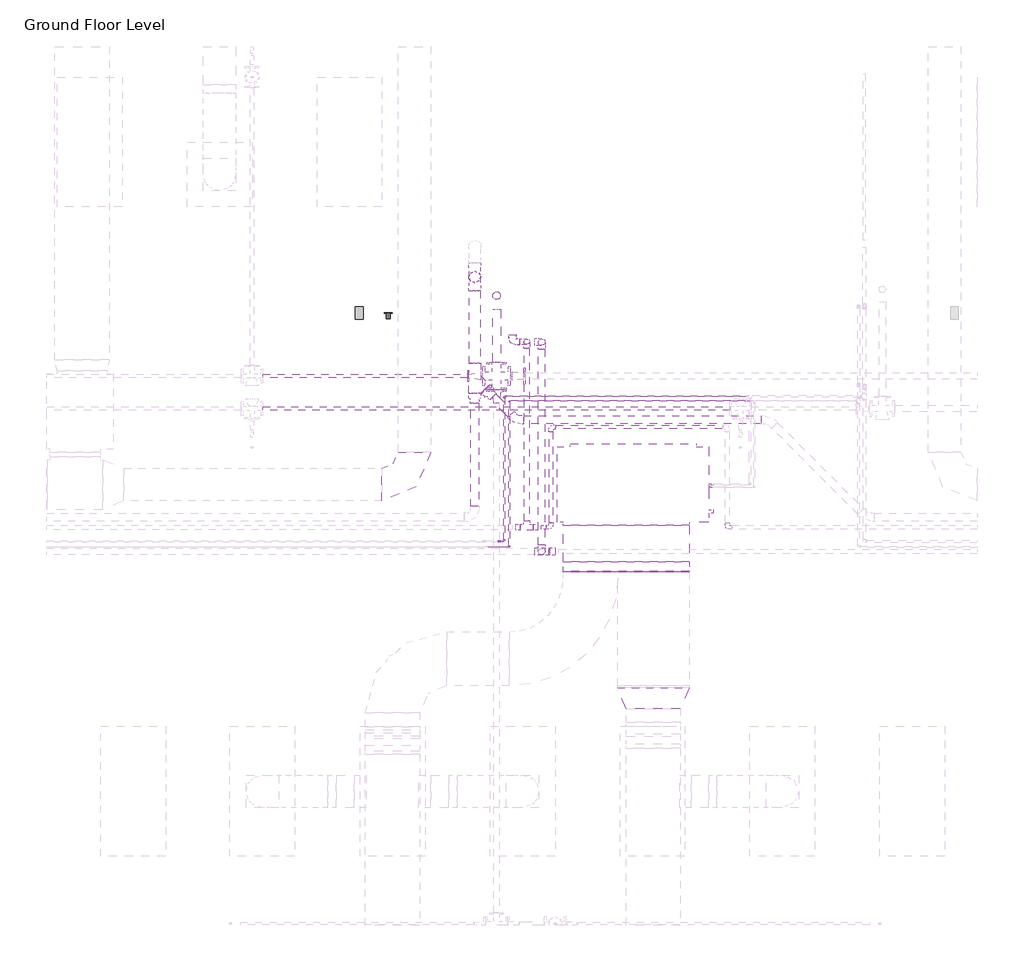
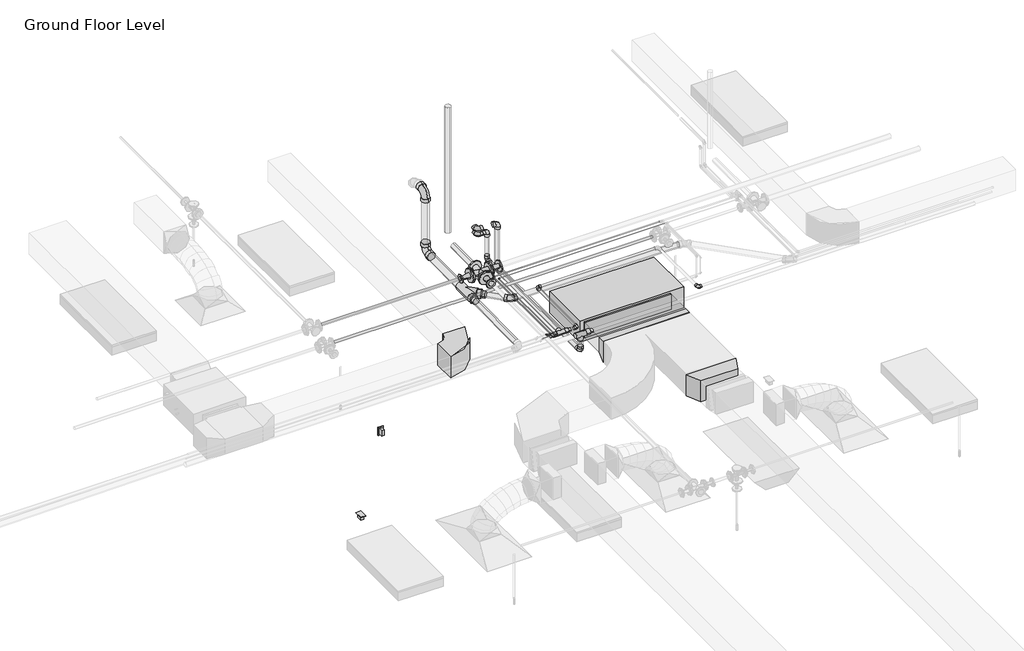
# One storey, part 52 of 74: 32 pipe fittings, 27 pipe segments, 4 duct fittings, 2 duct segments, 2 proxies, 1 switching device.
"""IFC4 building model written with IfcOpenShell, lengths in millimetres."""

from ifc_helpers import new_model, si_unit, point, frame, frame_2d, origin, place, context, project, spatial, polyline, circle_curve, trimmed, segment, composite_curve, outline, extrude, transform, mapped, element, save
from components import fcu_daikin_iu_5a1bd61d, m_duplex_receptacle_standard_10251bba, m_rectangular_elbow_radius_1_w_618da153, m_rectangular_transition_angle_45_degree_0ac038db, m_rectangular_transition_angle_45_degree_2e6f116c, m_rectangular_transition_angle_45_degree_bb273bf1, m_bend_pvc_sch_40_dwv_standard_bd716fa2, m_bend_pvc_sch_40_dwv_standard_fbb643c2, m_bend_pvc_sch_40_dwv_standard_bfb77a87, m_cross_flanged_cs_class_150_standard_72237f6b, m_elbow_generic_standard_a088f956, m_elbow_generic_standard_2a704253, m_elbow_generic_standard_65e6739a, m_reducer_flanged_cs_class_150_standard_50093ec8, m_reducer_flanged_cs_class_150_standard_fb6801e4, m_reducer_flanged_cs_class_150_standard_aac2962f, m_reducer_pvc_sch_40_dwv_standard_93e50943, m_tee_pvc_sch_40_standard_4c5b037c, standard_517a5a8d, standard_cd25fed3, standard_5079833c, standard_bbae78af, standard_a995ec02, standard_57727813, standard_77f9104c, standard_102e5625

model = new_model("IFC4")

# Units and contexts
model_context = context("Model", 3, world=origin())
ifc_project = project(units=[si_unit("LENGTHUNIT", "METRE", prefix="MILLI")], contexts=[model_context])

# Site, building, storey
site = spatial("IfcSite", under=ifc_project)
building = spatial("IfcBuilding", under=site)
storey = spatial("IfcBuildingStorey", under=building, Name="Ground Floor Level", Elevation=900.0)

# Proxies
placement = place(None, origin())
fcu_daikin_iu_shape = fcu_daikin_iu_5a1bd61d(model_context)
element("IfcBuildingElementProxy", 1, Name="FCU-DAIKIN IU : 12.9kW, 230V/50Hz/1Ph", ObjectType="FCU-DAIKIN IU : 12.9kW, 230V/50Hz/1Ph", at=placement, inside=storey, context=model_context, shape_type="MappedRepresentation", body=[
    mapped(fcu_daikin_iu_shape, transform((-4715.1910789, 14069.8153534, 3984.0925223), x_axis=(1.0, 0.0, 0.0), y_axis=(0.0, 1.0, 0.0), z_axis=(0.0, 0.0, 1.0))),
])
m_duplex_receptacle_standard_shape = m_duplex_receptacle_standard_10251bba(model_context)
element("IfcBuildingElementProxy", 2, Name="M_Duplex Receptacle : Standard", ObjectType="M_Duplex Receptacle : Standard", at=placement, inside=storey, context=model_context, shape_type="MappedRepresentation", body=[
    mapped(m_duplex_receptacle_standard_shape, transform((-7247.2327605, 15655.2153534, 1000.0), x_axis=(1.0, 0.0, 0.0), y_axis=(0.0, 1.0, 0.0), z_axis=(0.0, 0.0, 1.0))),
])

# Duct fittings
m_rectangular_elbow_radius_1_w_shape = m_rectangular_elbow_radius_1_w_618da153(model_context)
element("IfcDuctFitting", 3, ObjectType="M_Rectangular Elbow - Radius : 1 W", at=placement, inside=storey, context=model_context, shape_type="MappedRepresentation", body=[
    mapped(m_rectangular_elbow_radius_1_w_shape, transform((-6737.2327605, 14069.8153534, 4075.2872564), x_axis=(1.0, 0.0, 0.0), y_axis=(0.0, 1.0, 0.0), z_axis=(0.0, 0.0, 1.0))),
])
m_rectangular_transition_angle_45_degree_shape = m_rectangular_transition_angle_45_degree_0ac038db(model_context)
element("IfcDuctFitting", 4, ObjectType="M_Rectangular Transition - Angle : 45 Degree", at=placement, inside=storey, context=model_context, shape_type="MappedRepresentation", body=[
    mapped(m_rectangular_transition_angle_45_degree_shape, transform((-4528.6910789, 12192.414605, 4107.133239), x_axis=(0.0, -0.9999999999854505, 5.394345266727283e-06), y_axis=(1.0, 0.0, 0.0), z_axis=(0.0, 5.394345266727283e-06, 0.9999999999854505))),
])
m_rectangular_transition_angle_45_degree_2_shape = m_rectangular_transition_angle_45_degree_2e6f116c(model_context)
element("IfcDuctFitting", 5, ObjectType="M_Rectangular Transition - Angle : 45 Degree", at=placement, inside=storey, context=model_context, shape_type="MappedRepresentation", body=[
    mapped(m_rectangular_transition_angle_45_degree_2_shape, transform((-4778.6910789, 13694.4153534, 4150.0050223), x_axis=(0.0, -1.0, 0.0), y_axis=(1.0, 0.0, 0.0), z_axis=(0.0, 0.0, 1.0))),
])
m_rectangular_transition_angle_45_degree_3_shape = m_rectangular_transition_angle_45_degree_bb273bf1(model_context)
element("IfcDuctFitting", 6, ObjectType="M_Rectangular Transition - Angle : 45 Degree", at=placement, inside=storey, context=model_context, shape_type="MappedRepresentation", body=[
    mapped(m_rectangular_transition_angle_45_degree_3_shape, transform((-4778.6910789, 13354.5699657, 4150.0028095), x_axis=(0.0, -0.9999999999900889, -4.452214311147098e-06), y_axis=(1.0, 0.0, 0.0), z_axis=(0.0, -4.452214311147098e-06, 0.9999999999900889))),
])

# Duct segments
element("IfcDuctSegment", 7, ObjectType="Radius Elbows / Taps", at=placement, inside=storey, context=model_context, shape_type="SweptSolid", body=[
    extrude(outline(polyline([(-5359.6910789, 13694.083399), (-4197.6910789, 13694.083399), (-4197.6910789, 13354.5699657), (-5359.6910789, 13354.5699657), (-5359.6910789, 13694.083399)])), frame((0.0, 0.0, 4043.0050223), z_axis=(0.0, 0.0, 1.0), x_axis=(1.0, 0.0, 0.0)), (0.0, 0.0, 1.0), 214.0),
])
element("IfcDuctSegment", 8, ObjectType="Radius Elbows / Taps", at=placement, inside=storey, context=model_context, shape_type="SweptSolid", body=[
    extrude(outline(polyline([(0.0, -1162.0), (0.0, 0.0), (9.0109299, 0.0), (9.0109299, -1162.0), (0.0, -1162.0)])), frame((-5359.6910789, 13259.4862791, 3957.1425391), z_axis=(0.0, -0.00047283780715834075, 0.9999998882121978), x_axis=(0.0, 0.9999998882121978, 0.00047283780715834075)), (0.0, 0.0, 1.0), 300.0),
])

# Pipe fittings
m_bend_pvc_sch_40_dwv_standard_shape = m_bend_pvc_sch_40_dwv_standard_bd716fa2(model_context)
element("IfcPipeFitting", 9, ObjectType="M_Bend - PVC - Sch 40 - DWV : Standard", at=placement, inside=storey, context=model_context, shape_type="MappedRepresentation", body=[
    mapped(m_bend_pvc_sch_40_dwv_standard_shape, transform((-6179.1770144, 15988.8715849, 4179.1289206), x_axis=(0.0, 0.9999500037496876, 0.009999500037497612), y_axis=(0.0, -0.009999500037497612, 0.9999500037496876), z_axis=(1.0, 0.0, 0.0))),
])
m_bend_pvc_sch_40_dwv_standard_2_shape = m_bend_pvc_sch_40_dwv_standard_fbb643c2(model_context)
element("IfcPipeFitting", 10, ObjectType="M_Bend - PVC - Sch 40 - DWV : Standard", at=placement, inside=storey, context=model_context, shape_type="MappedRepresentation", body=[
    mapped(m_bend_pvc_sch_40_dwv_standard_2_shape, transform((-5796.171114, 14668.7334723, 4163.0722858), x_axis=(0.7069124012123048, -0.7071711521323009, -0.013557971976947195), y_axis=(0.7072304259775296, 0.7069828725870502, -0.0005851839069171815), z_axis=(0.009999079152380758, -0.00917493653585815, 0.999907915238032))),
])
m_bend_pvc_sch_40_dwv_standard_3_shape = m_bend_pvc_sch_40_dwv_standard_bfb77a87(model_context)
element("IfcPipeFitting", 11, ObjectType="M_Bend - PVC - Sch 40 - DWV : Standard", at=placement, inside=storey, context=model_context, shape_type="MappedRepresentation", body=[
    mapped(m_bend_pvc_sch_40_dwv_standard_3_shape, transform((-6179.1776394, 15988.874234, 5027.5258857), x_axis=(-4.882554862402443e-06, 2.069385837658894e-05, 0.9999999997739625), y_axis=(4.892659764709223e-08, 0.9999999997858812, -2.0693858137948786e-05), z_axis=(-0.9999999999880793, 4.8825558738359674e-08, -4.882555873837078e-06))),
])
m_cross_flanged_cs_class_150_standard_shape = m_cross_flanged_cs_class_150_standard_72237f6b(model_context)
element("IfcPipeFitting", 12, ObjectType="M_Cross - Flanged - CS - Class 150 : Standard", at=placement, inside=storey, context=model_context, shape_type="MappedRepresentation", body=[
    mapped(m_cross_flanged_cs_class_150_standard_shape, transform((-5978.130502, 15073.2009828, 4360.0), x_axis=(-1.0, 0.0, 0.0), y_axis=(0.0, -1.0, 0.0), z_axis=(0.0, 0.0, 1.0))),
])
m_elbow_generic_standard_shape = m_elbow_generic_standard_a088f956(model_context)
element("IfcPipeFitting", 13, ObjectType="M_Elbow - Generic : Standard", at=placement, inside=storey, context=model_context, shape_type="MappedRepresentation", body=[
    mapped(m_elbow_generic_standard_shape, transform((-5907.05663, 14885.6024145, 4380.0), x_axis=(-1.0, 0.0, 0.0), y_axis=(0.0, -1.0, 0.0), z_axis=(0.0, 0.0, 1.0))),
])
element("IfcPipeFitting", 14, ObjectType="M_Elbow - Generic : Standard", at=placement, inside=storey, context=model_context, shape_type="MappedRepresentation", body=[
    mapped(m_elbow_generic_standard_shape, transform((-5907.05663, 13545.2153534, 4380.0), x_axis=(1.0, 0.0, 0.0), y_axis=(0.0, 1.0, 0.0), z_axis=(0.0, 0.0, 1.0))),
])
m_elbow_generic_standard_2_shape = m_elbow_generic_standard_2a704253(model_context)
element("IfcPipeFitting", 15, ObjectType="M_Elbow - Generic : Standard", at=placement, inside=storey, context=model_context, shape_type="MappedRepresentation", body=[
    mapped(m_elbow_generic_standard_2_shape, transform((-5859.8931643, 14844.4055749, 4365.0), x_axis=(-1.0, 0.0, 0.0), y_axis=(0.0, -1.0, 0.0), z_axis=(0.0, 0.0, 1.0))),
])
element("IfcPipeFitting", 16, ObjectType="M_Elbow - Generic : Standard", at=placement, inside=storey, context=model_context, shape_type="MappedRepresentation", body=[
    mapped(m_elbow_generic_standard_2_shape, transform((-5859.8931643, 13494.0185138, 4393.0), x_axis=(1.0, 0.0, 0.0), y_axis=(0.0, 0.0, -1.0), z_axis=(0.0, 1.0, 0.0))),
])
element("IfcPipeFitting", 17, ObjectType="M_Elbow - Generic : Standard", at=placement, inside=storey, context=model_context, shape_type="MappedRepresentation", body=[
    mapped(m_elbow_generic_standard_2_shape, transform((-5859.8931643, 13494.0185138, 4365.0), x_axis=(0.0, -1.0, 0.0), y_axis=(0.0, 0.0, 1.0), z_axis=(-1.0, 0.0, 0.0))),
])
m_elbow_generic_standard_3_shape = m_elbow_generic_standard_65e6739a(model_context)
element("IfcPipeFitting", 18, ObjectType="M_Elbow - Generic : Standard", at=placement, inside=storey, context=model_context, shape_type="MappedRepresentation", body=[
    mapped(m_elbow_generic_standard_3_shape, transform((-5961.4046602, 13545.2153534, 4392.0), x_axis=(1.0, 0.0, 0.0), y_axis=(0.0, 0.0, -1.0), z_axis=(0.0, 1.0, 0.0))),
])
element("IfcPipeFitting", 19, ObjectType="M_Elbow - Generic : Standard", at=placement, inside=storey, context=model_context, shape_type="MappedRepresentation", body=[
    mapped(m_elbow_generic_standard_3_shape, transform((-5949.4046602, 13545.2153534, 4380.0), x_axis=(0.7071067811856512, 0.0, -0.7071067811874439), y_axis=(0.7071067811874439, 0.0, 0.7071067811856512), z_axis=(0.0, -1.0, 0.0))),
])
m_reducer_flanged_cs_class_150_standard_shape = m_reducer_flanged_cs_class_150_standard_50093ec8(model_context)
element("IfcPipeFitting", 20, ObjectType="M_Reducer - Flanged - CS - Class 150 : Standard", at=placement, inside=storey, context=model_context, shape_type="MappedRepresentation", body=[
    mapped(m_reducer_flanged_cs_class_150_standard_shape, transform((-5851.130502, 15073.2009828, 4360.0), x_axis=(1.0, 0.0, 0.0), y_axis=(0.0, 1.0, 0.0), z_axis=(0.0, 0.0, 1.0))),
])
m_reducer_flanged_cs_class_150_standard_2_shape = m_reducer_flanged_cs_class_150_standard_fb6801e4(model_context)
element("IfcPipeFitting", 21, ObjectType="M_Reducer - Flanged - CS - Class 150 : Standard", at=placement, inside=storey, context=model_context, shape_type="MappedRepresentation", body=[
    mapped(m_reducer_flanged_cs_class_150_standard_2_shape, transform((-6105.130502, 15073.2009828, 4360.0), x_axis=(-1.0, 0.0, 0.0), y_axis=(0.0, -1.0, 0.0), z_axis=(0.0, 0.0, 1.0))),
])
m_reducer_flanged_cs_class_150_standard_3_shape = m_reducer_flanged_cs_class_150_standard_aac2962f(model_context)
element("IfcPipeFitting", 22, ObjectType="M_Reducer - Flanged - CS - Class 150 : Standard", at=placement, inside=storey, context=model_context, shape_type="MappedRepresentation", body=[
    mapped(m_reducer_flanged_cs_class_150_standard_3_shape, transform((-5978.130502, 14946.2009828, 4360.0), x_axis=(0.0, -1.0, 0.0), y_axis=(1.0, 0.0, 0.0), z_axis=(0.0, 0.0, 1.0))),
])
m_reducer_pvc_sch_40_dwv_standard_shape = m_reducer_pvc_sch_40_dwv_standard_93e50943(model_context)
element("IfcPipeFitting", 23, ObjectType="M_Reducer - PVC - Sch 40 - DWV : Standard", at=placement, inside=storey, context=model_context, shape_type="MappedRepresentation", body=[
    mapped(m_reducer_pvc_sch_40_dwv_standard_shape, transform((-6179.1770144, 14819.9179815, 4167.4393846), x_axis=(0.0, 0.9999500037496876, 0.009999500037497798), y_axis=(-1.0000000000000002, 0.0, 0.0), z_axis=(0.0, -0.009999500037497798, 0.9999500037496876))),
])
element("IfcPipeFitting", 24, ObjectType="M_Reducer - PVC - Sch 40 - DWV : Standard", at=placement, inside=storey, context=model_context, shape_type="MappedRepresentation", body=[
    mapped(m_reducer_pvc_sch_40_dwv_standard_shape, transform((-6010.7168995, 14883.3577879, 4167.1870895), x_axis=(-0.7069124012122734, 0.7071711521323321, 0.01355797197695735), y_axis=(-0.7072361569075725, -0.7069773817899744, -2.1519182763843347e-08), z_axis=(0.00958516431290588, -0.009588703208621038, 0.9999080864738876))),
])
m_tee_pvc_sch_40_standard_shape = m_tee_pvc_sch_40_standard_4c5b037c(model_context)
element("IfcPipeFitting", 25, ObjectType="M_Tee - PVC - Sch 40 : Standard", at=placement, inside=storey, context=model_context, shape_type="MappedRepresentation", body=[
    mapped(m_tee_pvc_sch_40_standard_shape, transform((-6179.1770144, 15051.7796868, 4169.7580016), x_axis=(0.0, 0.9999500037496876, 0.009999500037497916), y_axis=(-0.9999972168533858, -2.3591797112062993e-05, 0.0023591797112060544), z_axis=(0.0023592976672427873, -0.009999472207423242, 0.9999472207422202))),
])
standard_shape = standard_517a5a8d(model_context)
element("IfcPipeFitting", 26, ObjectType="M_Elbow - CPVC - Sch 40 : Standard", at=placement, inside=storey, context=model_context, shape_type="MappedRepresentation", body=[
    mapped(standard_shape, transform((-5476.1871015, 13675.2153534, 4250.0), x_axis=(1.0, 0.0, 0.0), y_axis=(0.0, 1.0, 0.0), z_axis=(0.0, 0.0, 1.0))),
])
element("IfcPipeFitting", 27, ObjectType="M_Elbow - CPVC - Sch 40 : Standard", at=placement, inside=storey, context=model_context, shape_type="MappedRepresentation", body=[
    mapped(standard_shape, transform((-5476.1871015, 14603.43487, 4250.0), x_axis=(-1.0, 0.0, 0.0), y_axis=(0.0, -1.0, 0.0), z_axis=(0.0, 0.0, 1.0))),
])
element("IfcPipeFitting", 28, ObjectType="M_Elbow - CPVC - Sch 40 : Standard", at=placement, inside=storey, context=model_context, shape_type="MappedRepresentation", body=[
    mapped(standard_shape, transform((-3846.4489567, 13675.2153534, 4250.0), x_axis=(0.0, -1.0, 0.0), y_axis=(1.0, 0.0, 0.0), z_axis=(0.0, 0.0, 1.0))),
])
standard_2_shape = standard_cd25fed3(model_context)
element("IfcPipeFitting", 29, ObjectType="M_Tee - CPVC - Sch 40 : Standard", at=placement, inside=storey, context=model_context, shape_type="MappedRepresentation", body=[
    mapped(standard_2_shape, transform((-5560.8713756, 13449.9865561, 4315.0), x_axis=(1.0, 0.0, 0.0), y_axis=(0.0, 0.0, 1.0), z_axis=(0.0, -1.0, 0.0))),
])
standard_3_shape = standard_5079833c(model_context)
element("IfcPipeFitting", 30, ObjectType="M_Coupling Reducing - CPVC - Sch 40 : Standard", at=placement, inside=storey, context=model_context, shape_type="MappedRepresentation", body=[
    mapped(standard_3_shape, transform((-5486.9943636, 13449.9865561, 4315.0), x_axis=(1.0, 0.0, 0.0), y_axis=(0.0, 1.0, 0.0), z_axis=(0.0, 0.0, 1.0))),
])
standard_4_shape = standard_bbae78af(model_context)
element("IfcPipeFitting", 31, ObjectType="M_Tee - CPVC - Sch 40 : Standard", at=placement, inside=storey, context=model_context, shape_type="MappedRepresentation", body=[
    mapped(standard_4_shape, transform((-5698.3060147, 13675.2153534, 4250.0), x_axis=(1.0, 0.0, 0.0), y_axis=(0.0, -1.0, 0.0), z_axis=(0.0, 0.0, -1.0))),
])
standard_5_shape = standard_a995ec02(model_context)
element("IfcPipeFitting", 32, ObjectType="M_Coupling Reducing - CPVC - Sch 40 : Standard", at=placement, inside=storey, context=model_context, shape_type="MappedRepresentation", body=[
    mapped(standard_5_shape, transform((-5757.0562147, 13675.2153534, 4250.0), x_axis=(-1.0, 0.0, 0.0), y_axis=(0.0, -1.0, 0.0), z_axis=(0.0, 0.0, 1.0))),
])
standard_6_shape = standard_57727813(model_context)
element("IfcPipeFitting", 33, ObjectType="M_Elbow - CPVC - Sch 40 : Standard", at=placement, inside=storey, context=model_context, shape_type="MappedRepresentation", body=[
    mapped(standard_6_shape, transform((-5560.8713756, 15385.5016509, 4719.8375), x_axis=(0.0, 0.0, 1.0), y_axis=(-0.997564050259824, 0.06975647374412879, 0.0), z_axis=(-0.06975647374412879, -0.997564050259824, 0.0))),
])
element("IfcPipeFitting", 34, ObjectType="M_Elbow - CPVC - Sch 40 : Standard", at=placement, inside=storey, context=model_context, shape_type="MappedRepresentation", body=[
    mapped(standard_6_shape, transform((-5831.0029399, 15389.9865561, 4719.8375), x_axis=(0.0, -1.0, 0.0), y_axis=(1.0, 0.0, 0.0), z_axis=(0.0, 0.0, 1.0))),
])
element("IfcPipeFitting", 35, ObjectType="M_Elbow - CPVC - Sch 40 : Standard", at=placement, inside=storey, context=model_context, shape_type="MappedRepresentation", body=[
    mapped(standard_6_shape, transform((-5560.8713756, 15385.5016509, 4090.0), x_axis=(0.0, 0.0, -1.0), y_axis=(0.0, -1.0, 0.0), z_axis=(-1.0, 0.0, 0.0))),
])
element("IfcPipeFitting", 36, ObjectType="M_Elbow - CPVC - Sch 40 : Standard", at=placement, inside=storey, context=model_context, shape_type="MappedRepresentation", body=[
    mapped(standard_6_shape, transform((-5560.8713756, 13449.9865561, 4090.0), x_axis=(0.0, 0.0, -1.0), y_axis=(0.0, 1.0, 0.0), z_axis=(1.0, 0.0, 0.0))),
])
standard_7_shape = standard_77f9104c(model_context)
element("IfcPipeFitting", 37, ObjectType="M_Coupling Reducing - CPVC - Sch 40 : Standard", at=placement, inside=storey, context=model_context, shape_type="MappedRepresentation", body=[
    mapped(standard_7_shape, transform((-5639.5558147, 13675.2153534, 4250.0), x_axis=(1.0, 0.0, 0.0), y_axis=(0.0, 1.0, 0.0), z_axis=(0.0, 0.0, 1.0))),
])
standard_8_shape = standard_102e5625(model_context)
element("IfcPipeFitting", 38, ObjectType="M_Elbow - CPVC - Sch 40 : Standard", at=placement, inside=storey, context=model_context, shape_type="MappedRepresentation", body=[
    mapped(standard_8_shape, transform((-5698.3060147, 15389.9865561, 4250.0), x_axis=(0.0, 1.0, 0.0), y_axis=(0.0, 0.0, 1.0), z_axis=(1.0, 0.0, 0.0))),
])
element("IfcPipeFitting", 39, ObjectType="M_Elbow - CPVC - Sch 40 : Standard", at=placement, inside=storey, context=model_context, shape_type="MappedRepresentation", body=[
    mapped(standard_8_shape, transform((-5698.3060147, 15389.9865561, 4650.0), x_axis=(0.0, 0.0, 1.0), y_axis=(-1.0, 0.0, 0.0), z_axis=(0.0, -1.0, 0.0))),
])
element("IfcPipeFitting", 40, ObjectType="M_Elbow - CPVC - Sch 40 : Standard", at=placement, inside=storey, context=model_context, shape_type="MappedRepresentation", body=[
    mapped(standard_8_shape, transform((-5831.0029399, 15389.9865561, 4650.0), x_axis=(0.0, -1.0, 0.0), y_axis=(1.0, 0.0, 0.0), z_axis=(0.0, 0.0, 1.0))),
])

# Pipe segments
element("IfcPipeSegment", 41, ObjectType="CPVC", at=placement, inside=storey, context=model_context, shape_type="SweptSolid", body=[
    extrude(outline(composite_curve([segment(trimmed(circle_curve(frame_2d((13449.9865561, 4315.0)), 30.1625), [point((13419.8240561, 4315.0))], [point((13449.9865561, 4345.1625))], False, "CARTESIAN"), True, "CONTINUOUS"), segment(trimmed(circle_curve(frame_2d((13449.9865561, 4315.0)), 30.1625), [point((13449.9865561, 4345.1625))], [point((13480.1490561, 4315.0))], False, "CARTESIAN"), True, "CONTINUOUS"), segment(trimmed(circle_curve(frame_2d((13449.9865561, 4315.0)), 30.1625), [point((13480.1490561, 4315.0))], [point((13449.9865561, 4284.8375))], False, "CARTESIAN"), True, "CONTINUOUS"), segment(trimmed(circle_curve(frame_2d((13449.9865561, 4315.0)), 30.1625), [point((13449.9865561, 4284.8375))], [point((13419.8240561, 4315.0))], False, "CARTESIAN"), True, "CONTINUOUS")], self_intersect=False)), frame((-5494.1963756, 0.0, 0.0), z_axis=(1.0, 0.0, 0.0), x_axis=(0.0, 1.0, 0.0)), (0.0, 0.0, 1.0), 7.202012),
])
element("IfcPipeSegment", 42, ObjectType="CPVC", at=placement, inside=storey, context=model_context, shape_type="SweptSolid", body=[
    extrude(outline(composite_curve([segment(trimmed(circle_curve(frame_2d((4090.0, -5560.8713756)), 30.1625), [point((4090.0, -5591.0338756))], [point((4059.8375, -5560.8713756))], False, "CARTESIAN"), True, "CONTINUOUS"), segment(trimmed(circle_curve(frame_2d((4090.0, -5560.8713756)), 30.1625), [point((4059.8375, -5560.8713756))], [point((4090.0, -5530.7088756))], False, "CARTESIAN"), True, "CONTINUOUS"), segment(trimmed(circle_curve(frame_2d((4090.0, -5560.8713756)), 30.1625), [point((4090.0, -5530.7088756))], [point((4120.1625, -5560.8713756))], False, "CARTESIAN"), True, "CONTINUOUS"), segment(trimmed(circle_curve(frame_2d((4090.0, -5560.8713756)), 30.1625), [point((4120.1625, -5560.8713756))], [point((4090.0, -5591.0338756))], False, "CARTESIAN"), True, "CONTINUOUS")], self_intersect=False)), frame((0.0, 13514.2803061, 0.0), z_axis=(0.0, 1.0, 0.0), x_axis=(0.0, 0.0, 1.0)), (0.0, 0.0, 1.0), 1806.9275947),
])
element("IfcPipeSegment", 43, ObjectType="CPVC", at=placement, inside=storey, context=model_context, shape_type="SweptSolid", body=[
    extrude(outline(composite_curve([segment(trimmed(circle_curve(frame_2d((4250.0, -5698.3060147)), 24.13), [point((4250.0, -5674.1760147))], [point((4274.13, -5698.3060147))], False, "CARTESIAN"), True, "CONTINUOUS"), segment(trimmed(circle_curve(frame_2d((4250.0, -5698.3060147)), 24.13), [point((4274.13, -5698.3060147))], [point((4250.0, -5722.4360147))], False, "CARTESIAN"), True, "CONTINUOUS"), segment(trimmed(circle_curve(frame_2d((4250.0, -5698.3060147)), 24.13), [point((4250.0, -5722.4360147))], [point((4225.87, -5698.3060147))], False, "CARTESIAN"), True, "CONTINUOUS"), segment(trimmed(circle_curve(frame_2d((4250.0, -5698.3060147)), 24.13), [point((4225.87, -5698.3060147))], [point((4250.0, -5674.1760147))], False, "CARTESIAN"), True, "CONTINUOUS")], self_intersect=False)), frame((0.0, 13733.9655534, 0.0), z_axis=(0.0, 1.0, 0.0), x_axis=(0.0, 0.0, 1.0)), (0.0, 0.0, 1.0), 1593.3020527),
])
element("IfcPipeSegment", 44, ObjectType="CPVC", at=placement, inside=storey, context=model_context, shape_type="SweptSolid", body=[
    extrude(outline(composite_curve([segment(trimmed(circle_curve(frame_2d((-5698.3060147, 15389.9865561)), 24.13), [point((-5722.4360147, 15389.9865561))], [point((-5698.3060147, 15414.1165561))], False, "CARTESIAN"), True, "CONTINUOUS"), segment(trimmed(circle_curve(frame_2d((-5698.3060147, 15389.9865561)), 24.13), [point((-5698.3060147, 15414.1165561))], [point((-5674.1760147, 15389.9865561))], False, "CARTESIAN"), True, "CONTINUOUS"), segment(trimmed(circle_curve(frame_2d((-5698.3060147, 15389.9865561)), 24.13), [point((-5674.1760147, 15389.9865561))], [point((-5698.3060147, 15365.8565561))], False, "CARTESIAN"), True, "CONTINUOUS"), segment(trimmed(circle_curve(frame_2d((-5698.3060147, 15389.9865561)), 24.13), [point((-5698.3060147, 15365.8565561))], [point((-5722.4360147, 15389.9865561))], False, "CARTESIAN"), True, "CONTINUOUS")], self_intersect=False)), frame((0.0, 0.0, 4312.71895), z_axis=(0.0, 0.0, 1.0), x_axis=(1.0, 0.0, 0.0)), (0.0, 0.0, 1.0), 274.5621),
])
element("IfcPipeSegment", 45, ObjectType="CPVC", at=placement, inside=storey, context=model_context, shape_type="SweptSolid", body=[
    extrude(outline(composite_curve([segment(trimmed(circle_curve(frame_2d((-5560.8713756, 15385.5016509)), 30.1625), [point((-5591.0338756, 15385.5016509))], [point((-5560.8713756, 15415.6641509))], False, "CARTESIAN"), True, "CONTINUOUS"), segment(trimmed(circle_curve(frame_2d((-5560.8713756, 15385.5016509)), 30.1625), [point((-5560.8713756, 15415.6641509))], [point((-5530.7088756, 15385.5016509))], False, "CARTESIAN"), True, "CONTINUOUS"), segment(trimmed(circle_curve(frame_2d((-5560.8713756, 15385.5016509)), 30.1625), [point((-5530.7088756, 15385.5016509))], [point((-5560.8713756, 15355.3391509))], False, "CARTESIAN"), True, "CONTINUOUS"), segment(trimmed(circle_curve(frame_2d((-5560.8713756, 15385.5016509)), 30.1625), [point((-5560.8713756, 15355.3391509))], [point((-5591.0338756, 15385.5016509))], False, "CARTESIAN"), True, "CONTINUOUS")], self_intersect=False)), frame((0.0, 0.0, 4154.29375), z_axis=(0.0, 0.0, 1.0), x_axis=(1.0, 0.0, 0.0)), (0.0, 0.0, 1.0), 501.25),
])
element("IfcPipeSegment", 46, ObjectType="CPVC", at=placement, inside=storey, context=model_context, shape_type="SweptSolid", body=[
    extrude(outline(composite_curve([segment(trimmed(circle_curve(frame_2d((13675.2153534, 4250.0)), 16.7005), [point((13658.5148534, 4250.0))], [point((13675.2153534, 4266.7005))], False, "CARTESIAN"), True, "CONTINUOUS"), segment(trimmed(circle_curve(frame_2d((13675.2153534, 4250.0)), 16.7005), [point((13675.2153534, 4266.7005))], [point((13691.9158534, 4250.0))], False, "CARTESIAN"), True, "CONTINUOUS"), segment(trimmed(circle_curve(frame_2d((13675.2153534, 4250.0)), 16.7005), [point((13691.9158534, 4250.0))], [point((13675.2153534, 4233.2995))], False, "CARTESIAN"), True, "CONTINUOUS"), segment(trimmed(circle_curve(frame_2d((13675.2153534, 4250.0)), 16.7005), [point((13675.2153534, 4233.2995))], [point((13658.5148534, 4250.0))], False, "CARTESIAN"), True, "CONTINUOUS")], self_intersect=False)), frame((-5567.3569397, 0.0, 0.0), z_axis=(1.0, 0.0, 0.0), x_axis=(0.0, 1.0, 0.0)), (0.0, 0.0, 1.0), 47.9072882),
])
element("IfcPipeSegment", 47, ObjectType="CPVC", at=placement, inside=storey, context=model_context, shape_type="SweptSolid", body=[
    extrude(outline(composite_curve([segment(trimmed(circle_curve(frame_2d((4250.0, -5476.1871015)), 16.7005), [point((4250.0, -5459.4866015))], [point((4266.7005, -5476.1871015))], False, "CARTESIAN"), True, "CONTINUOUS"), segment(trimmed(circle_curve(frame_2d((4250.0, -5476.1871015)), 16.7005), [point((4266.7005, -5476.1871015))], [point((4250.0, -5492.8876015))], False, "CARTESIAN"), True, "CONTINUOUS"), segment(trimmed(circle_curve(frame_2d((4250.0, -5476.1871015)), 16.7005), [point((4250.0, -5492.8876015))], [point((4233.2995, -5476.1871015))], False, "CARTESIAN"), True, "CONTINUOUS"), segment(trimmed(circle_curve(frame_2d((4250.0, -5476.1871015)), 16.7005), [point((4233.2995, -5476.1871015))], [point((4250.0, -5459.4866015))], False, "CARTESIAN"), True, "CONTINUOUS")], self_intersect=False)), frame((0.0, 13718.4779034, 0.0), z_axis=(0.0, 1.0, 0.0), x_axis=(0.0, 0.0, 1.0)), (0.0, 0.0, 1.0), 841.6944166),
])
element("IfcPipeSegment", 48, ObjectType="CPVC", at=placement, inside=storey, context=model_context, shape_type="SweptSolid", body=[
    extrude(outline(composite_curve([segment(trimmed(circle_curve(frame_2d((14603.43487, 4250.0)), 16.7005), [point((14620.13537, 4250.0))], [point((14603.43487, 4233.2995))], False, "CARTESIAN"), True, "CONTINUOUS"), segment(trimmed(circle_curve(frame_2d((14603.43487, 4250.0)), 16.7005), [point((14603.43487, 4233.2995))], [point((14586.73437, 4250.0))], False, "CARTESIAN"), True, "CONTINUOUS"), segment(trimmed(circle_curve(frame_2d((14603.43487, 4250.0)), 16.7005), [point((14586.73437, 4250.0))], [point((14603.43487, 4266.7005))], False, "CARTESIAN"), True, "CONTINUOUS"), segment(trimmed(circle_curve(frame_2d((14603.43487, 4250.0)), 16.7005), [point((14603.43487, 4266.7005))], [point((14620.13537, 4250.0))], False, "CARTESIAN"), True, "CONTINUOUS")], self_intersect=False)), frame((-5432.9245515, 0.0, 0.0), z_axis=(1.0, 0.0, 0.0), x_axis=(0.0, 1.0, 0.0)), (0.0, 0.0, 1.0), 1543.2130448),
])
element("IfcPipeSegment", 49, ObjectType="CPVC", at=placement, inside=storey, context=model_context, shape_type="SweptSolid", body=[
    extrude(outline(composite_curve([segment(trimmed(circle_curve(frame_2d((-5560.8713756, 13449.9865561)), 30.1625), [point((-5530.7088756, 13449.9865561))], [point((-5560.8713756, 13419.8240561))], False, "CARTESIAN"), True, "CONTINUOUS"), segment(trimmed(circle_curve(frame_2d((-5560.8713756, 13449.9865561)), 30.1625), [point((-5560.8713756, 13419.8240561))], [point((-5591.0338756, 13449.9865561))], False, "CARTESIAN"), True, "CONTINUOUS"), segment(trimmed(circle_curve(frame_2d((-5560.8713756, 13449.9865561)), 30.1625), [point((-5591.0338756, 13449.9865561))], [point((-5560.8713756, 13480.1490561))], False, "CARTESIAN"), True, "CONTINUOUS"), segment(trimmed(circle_curve(frame_2d((-5560.8713756, 13449.9865561)), 30.1625), [point((-5560.8713756, 13480.1490561))], [point((-5530.7088756, 13449.9865561))], False, "CARTESIAN"), True, "CONTINUOUS")], self_intersect=False)), frame((0.0, 0.0, 4154.29375), z_axis=(0.0, 0.0, 1.0), x_axis=(1.0, 0.0, 0.0)), (0.0, 0.0, 1.0), 94.03125),
])
element("IfcPipeSegment", 50, ObjectType="Copper", at=placement, inside=storey, context=model_context, shape_type="SweptSolid", body=[
    extrude(outline(composite_curve([segment(trimmed(circle_curve(frame_2d((13494.0185138, 4393.0)), 3.35), [point((13490.6685138, 4393.0))], [point((13494.0185138, 4396.35))], False, "CARTESIAN"), True, "CONTINUOUS"), segment(trimmed(circle_curve(frame_2d((13494.0185138, 4393.0)), 3.35), [point((13494.0185138, 4396.35))], [point((13497.3685138, 4393.0))], False, "CARTESIAN"), True, "CONTINUOUS"), segment(trimmed(circle_curve(frame_2d((13494.0185138, 4393.0)), 3.35), [point((13497.3685138, 4393.0))], [point((13494.0185138, 4389.65))], False, "CARTESIAN"), True, "CONTINUOUS"), segment(trimmed(circle_curve(frame_2d((13494.0185138, 4393.0)), 3.35), [point((13494.0185138, 4389.65))], [point((13490.6685138, 4393.0))], False, "CARTESIAN"), True, "CONTINUOUS")], self_intersect=False)), frame((-6053.203103, 0.0, 0.0), z_axis=(1.0, 0.0, 0.0), x_axis=(0.0, 1.0, 0.0)), (0.0, 0.0, 1.0), 182.1724387),
])
element("IfcPipeSegment", 51, ObjectType="Copper", at=placement, inside=storey, context=model_context, shape_type="SweptSolid", body=[
    extrude(outline(composite_curve([segment(trimmed(circle_curve(frame_2d((4380.0, -5907.05663)), 6.5), [point((4380.0, -5900.55663))], [point((4386.5, -5907.05663))], False, "CARTESIAN"), True, "CONTINUOUS"), segment(trimmed(circle_curve(frame_2d((4380.0, -5907.05663)), 6.5), [point((4386.5, -5907.05663))], [point((4380.0, -5913.55663))], False, "CARTESIAN"), True, "CONTINUOUS"), segment(trimmed(circle_curve(frame_2d((4380.0, -5907.05663)), 6.5), [point((4380.0, -5913.55663))], [point((4373.5, -5907.05663))], False, "CARTESIAN"), True, "CONTINUOUS"), segment(trimmed(circle_curve(frame_2d((4380.0, -5907.05663)), 6.5), [point((4373.5, -5907.05663))], [point((4380.0, -5900.55663))], False, "CARTESIAN"), True, "CONTINUOUS")], self_intersect=False)), frame((0.0, 13559.5028534, 0.0), z_axis=(0.0, 1.0, 0.0), x_axis=(0.0, 0.0, 1.0)), (0.0, 0.0, 1.0), 1311.8120611),
])
element("IfcPipeSegment", 52, ObjectType="Copper", at=placement, inside=storey, context=model_context, shape_type="SweptSolid", body=[
    extrude(outline(composite_curve([segment(trimmed(circle_curve(frame_2d((4365.0, -5859.8931643)), 3.35), [point((4365.0, -5856.5431643))], [point((4368.35, -5859.8931643))], False, "CARTESIAN"), True, "CONTINUOUS"), segment(trimmed(circle_curve(frame_2d((4365.0, -5859.8931643)), 3.35), [point((4368.35, -5859.8931643))], [point((4365.0, -5863.2431643))], False, "CARTESIAN"), True, "CONTINUOUS"), segment(trimmed(circle_curve(frame_2d((4365.0, -5859.8931643)), 3.35), [point((4365.0, -5863.2431643))], [point((4361.65, -5859.8931643))], False, "CARTESIAN"), True, "CONTINUOUS"), segment(trimmed(circle_curve(frame_2d((4365.0, -5859.8931643)), 3.35), [point((4361.65, -5859.8931643))], [point((4365.0, -5856.5431643))], False, "CARTESIAN"), True, "CONTINUOUS")], self_intersect=False)), frame((0.0, 13505.1560138, 0.0), z_axis=(0.0, 1.0, 0.0), x_axis=(0.0, 0.0, 1.0)), (0.0, 0.0, 1.0), 1328.1120611),
])
element("IfcPipeSegment", 53, ObjectType="Copper", at=placement, inside=storey, context=model_context, shape_type="SweptSolid", body=[
    extrude(outline(composite_curve([segment(trimmed(circle_curve(frame_2d((14885.6024145, 4380.0)), 6.5), [point((14879.1024145, 4380.0))], [point((14885.6024145, 4386.5))], False, "CARTESIAN"), True, "CONTINUOUS"), segment(trimmed(circle_curve(frame_2d((14885.6024145, 4380.0)), 6.5), [point((14885.6024145, 4386.5))], [point((14892.1024145, 4380.0))], False, "CARTESIAN"), True, "CONTINUOUS"), segment(trimmed(circle_curve(frame_2d((14885.6024145, 4380.0)), 6.5), [point((14892.1024145, 4380.0))], [point((14885.6024145, 4373.5))], False, "CARTESIAN"), True, "CONTINUOUS"), segment(trimmed(circle_curve(frame_2d((14885.6024145, 4380.0)), 6.5), [point((14885.6024145, 4373.5))], [point((14879.1024145, 4380.0))], False, "CARTESIAN"), True, "CONTINUOUS")], self_intersect=False)), frame((-5892.76913, 0.0, 0.0), z_axis=(1.0, 0.0, 0.0), x_axis=(0.0, 1.0, 0.0)), (0.0, 0.0, 1.0), 2228.690551),
])
element("IfcPipeSegment", 54, ObjectType="Copper", at=placement, inside=storey, context=model_context, shape_type="SweptSolid", body=[
    extrude(outline(composite_curve([segment(trimmed(circle_curve(frame_2d((14844.4055749, 4365.0)), 3.35), [point((14847.7555749, 4365.0))], [point((14844.4055749, 4361.65))], False, "CARTESIAN"), True, "CONTINUOUS"), segment(trimmed(circle_curve(frame_2d((14844.4055749, 4365.0)), 3.35), [point((14844.4055749, 4361.65))], [point((14841.0555749, 4365.0))], False, "CARTESIAN"), True, "CONTINUOUS"), segment(trimmed(circle_curve(frame_2d((14844.4055749, 4365.0)), 3.35), [point((14841.0555749, 4365.0))], [point((14844.4055749, 4368.35))], False, "CARTESIAN"), True, "CONTINUOUS"), segment(trimmed(circle_curve(frame_2d((14844.4055749, 4365.0)), 3.35), [point((14844.4055749, 4368.35))], [point((14847.7555749, 4365.0))], False, "CARTESIAN"), True, "CONTINUOUS")], self_intersect=False)), frame((-5848.7556643, 0.0, 0.0), z_axis=(1.0, 0.0, 0.0), x_axis=(0.0, 1.0, 0.0)), (0.0, 0.0, 1.0), 2229.4583352),
])
element("IfcPipeSegment", 55, ObjectType="Copper", at=placement, inside=storey, context=model_context, shape_type="SweptSolid", body=[
    extrude(outline(composite_curve([segment(trimmed(circle_curve(frame_2d((-5859.8931643, 13494.0185138)), 3.35), [point((-5856.5431643, 13494.0185138))], [point((-5859.8931643, 13490.6685138))], False, "CARTESIAN"), True, "CONTINUOUS"), segment(trimmed(circle_curve(frame_2d((-5859.8931643, 13494.0185138)), 3.35), [point((-5859.8931643, 13490.6685138))], [point((-5863.2431643, 13494.0185138))], False, "CARTESIAN"), True, "CONTINUOUS"), segment(trimmed(circle_curve(frame_2d((-5859.8931643, 13494.0185138)), 3.35), [point((-5863.2431643, 13494.0185138))], [point((-5859.8931643, 13497.3685138))], False, "CARTESIAN"), True, "CONTINUOUS"), segment(trimmed(circle_curve(frame_2d((-5859.8931643, 13494.0185138)), 3.35), [point((-5859.8931643, 13497.3685138))], [point((-5856.5431643, 13494.0185138))], False, "CARTESIAN"), True, "CONTINUOUS")], self_intersect=False)), frame((0.0, 0.0, 4376.1375), z_axis=(0.0, 0.0, 1.0), x_axis=(1.0, 0.0, 0.0)), (0.0, 0.0, 1.0), 5.725),
])
element("IfcPipeSegment", 56, ObjectType="Copper", at=placement, inside=storey, context=model_context, shape_type="SweptSolid", body=[
    extrude(outline(composite_curve([segment(trimmed(circle_curve(frame_2d((0.0, -6.5)), 6.5), [point((0.0, -13.0))], [point((-6.5, -6.5))], False, "CARTESIAN"), True, "CONTINUOUS"), segment(trimmed(circle_curve(frame_2d((0.0, -6.5)), 6.5), [point((-6.5, -6.5))], [point((0.0, 0.0))], False, "CARTESIAN"), True, "CONTINUOUS"), segment(trimmed(circle_curve(frame_2d((0.0, -6.5)), 6.5), [point((0.0, 0.0))], [point((6.5, -6.5))], False, "CARTESIAN"), True, "CONTINUOUS"), segment(trimmed(circle_curve(frame_2d((0.0, -6.5)), 6.5), [point((6.5, -6.5))], [point((0.0, -13.0))], False, "CARTESIAN"), True, "CONTINUOUS")], self_intersect=False)), frame((-5953.5893721, 13551.7153534, 4384.1847119), z_axis=(-0.7071067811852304, 0.0, 0.7071067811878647), x_axis=(0.7071067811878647, 0.0, 0.7071067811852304)), (0.0, 0.0, 1.0), 5.1344102),
])
element("IfcPipeSegment", 57, ObjectType="Copper", at=placement, inside=storey, context=model_context, shape_type="SweptSolid", body=[
    extrude(outline(composite_curve([segment(trimmed(circle_curve(frame_2d((13545.2153534, 4380.0)), 6.5), [point((13551.7153534, 4380.0))], [point((13545.2153534, 4373.5))], False, "CARTESIAN"), True, "CONTINUOUS"), segment(trimmed(circle_curve(frame_2d((13545.2153534, 4380.0)), 6.5), [point((13545.2153534, 4373.5))], [point((13538.7153534, 4380.0))], False, "CARTESIAN"), True, "CONTINUOUS"), segment(trimmed(circle_curve(frame_2d((13545.2153534, 4380.0)), 6.5), [point((13538.7153534, 4380.0))], [point((13545.2153534, 4386.5))], False, "CARTESIAN"), True, "CONTINUOUS"), segment(trimmed(circle_curve(frame_2d((13545.2153534, 4380.0)), 6.5), [point((13545.2153534, 4386.5))], [point((13551.7153534, 4380.0))], False, "CARTESIAN"), True, "CONTINUOUS")], self_intersect=False)), frame((-5943.4865839, 0.0, 0.0), z_axis=(1.0, 0.0, 0.0), x_axis=(0.0, 1.0, 0.0)), (0.0, 0.0, 1.0), 22.1424539),
])
element("IfcPipeSegment", 58, ObjectType="PVC - DWV", at=placement, inside=storey, context=model_context, shape_type="SweptSolid", body=[
    extrude(outline(composite_curve([segment(trimmed(circle_curve(frame_2d((0.0, 50.7999999)), 50.8), [point((50.8, 50.7999999))], [point((0.0, 0.0))], False, "CARTESIAN"), True, "CONTINUOUS"), segment(trimmed(circle_curve(frame_2d((0.0, 50.7999999)), 50.8), [point((0.0, 0.0))], [point((-50.8, 50.7999999))], False, "CARTESIAN"), True, "CONTINUOUS"), segment(trimmed(circle_curve(frame_2d((0.0, 50.7999999)), 50.8), [point((-50.8, 50.7999999))], [point((0.0, 101.5999999))], False, "CARTESIAN"), True, "CONTINUOUS"), segment(trimmed(circle_curve(frame_2d((0.0, 50.7999999)), 50.8), [point((0.0, 101.5999999))], [point((50.8, 50.7999999))], False, "CARTESIAN"), True, "CONTINUOUS")], self_intersect=False)), frame((-6179.1770144, 15188.6920457, 4221.9296651), z_axis=(0.0, 0.9999500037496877, 0.009999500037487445), x_axis=(1.0, 0.0, 0.0)), (0.0, 0.0, 1.0), 671.6974847),
])
element("IfcPipeSegment", 59, ObjectType="PVC - DWV", at=placement, inside=storey, context=model_context, shape_type="SweptSolid", body=[
    extrude(outline(composite_curve([segment(trimmed(circle_curve(frame_2d((-6179.1770144, 15988.8715849)), 50.8), [point((-6229.9770144, 15988.8715849))], [point((-6179.1770144, 16039.6715849))], False, "CARTESIAN"), True, "CONTINUOUS"), segment(trimmed(circle_curve(frame_2d((-6179.1770144, 15988.8715849)), 50.8), [point((-6179.1770144, 16039.6715849))], [point((-6128.3770144, 15988.8715849))], False, "CARTESIAN"), True, "CONTINUOUS"), segment(trimmed(circle_curve(frame_2d((-6179.1770144, 15988.8715849)), 50.8), [point((-6128.3770144, 15988.8715849))], [point((-6179.1770144, 15938.0715849))], False, "CARTESIAN"), True, "CONTINUOUS"), segment(trimmed(circle_curve(frame_2d((-6179.1770144, 15988.8715849)), 50.8), [point((-6179.1770144, 15938.0715849))], [point((-6229.9770144, 15988.8715849))], False, "CARTESIAN"), True, "CONTINUOUS")], self_intersect=False)), frame((0.0, 0.0, 4307.1429831), z_axis=(0.0, 0.0, 1.0), x_axis=(1.0, 0.0, 0.0)), (0.0, 0.0, 1.0), 592.3688402),
])
element("IfcPipeSegment", 60, ObjectType="PVC - DWV", at=placement, inside=storey, context=model_context, shape_type="SweptSolid", body=[
    extrude(outline(composite_curve([segment(trimmed(circle_curve(frame_2d((0.0, 36.5125)), 36.5125), [point((0.0, 73.025))], [point((36.5125001, 36.5125))], False, "CARTESIAN"), True, "CONTINUOUS"), segment(trimmed(circle_curve(frame_2d((0.0, 36.5125)), 36.5125), [point((36.5125001, 36.5125))], [point((0.0, 0.0))], False, "CARTESIAN"), True, "CONTINUOUS"), segment(trimmed(circle_curve(frame_2d((0.0, 36.5125)), 36.5125), [point((0.0, 0.0))], [point((-36.5125, 36.5125))], False, "CARTESIAN"), True, "CONTINUOUS"), segment(trimmed(circle_curve(frame_2d((0.0, 36.5125)), 36.5125), [point((-36.5125, 36.5125))], [point((0.0, 73.025))], False, "CARTESIAN"), True, "CONTINUOUS")], self_intersect=False)), frame((-3534.8278242, 14632.2209723, 4140.4588529), z_axis=(-0.9999500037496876, 0.0, 0.009999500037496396), x_axis=(0.009999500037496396, 0.0, 0.9999500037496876)), (0.0, 0.0, 1.0), 2191.3922916),
])
element("IfcPipeSegment", 61, ObjectType="PVC - DWV", at=placement, inside=storey, context=model_context, shape_type="SweptSolid", body=[
    extrude(outline(composite_curve([segment(trimmed(circle_curve(frame_2d((0.0, 36.5125)), 36.5125), [point((36.509147, 37.0073089))], [point((0.4948088, 0.0033529))], False, "CARTESIAN"), True, "CONTINUOUS"), segment(trimmed(circle_curve(frame_2d((0.0, 36.5125)), 36.5125), [point((0.4948088, 0.0033529))], [point((-36.5091471, 36.0176911))], False, "CARTESIAN"), True, "CONTINUOUS"), segment(trimmed(circle_curve(frame_2d((0.0, 36.5125)), 36.5125), [point((-36.5091471, 36.0176911))], [point((-0.494809, 73.0216471))], False, "CARTESIAN"), True, "CONTINUOUS"), segment(trimmed(circle_curve(frame_2d((0.0, 36.5125)), 36.5125), [point((-0.494809, 73.0216471))], [point((36.509147, 37.0073089))], False, "CARTESIAN"), True, "CONTINUOUS")], self_intersect=False)), frame((-5845.7002686, 14717.5808626, 4200.5280038), z_axis=(-0.7069124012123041, 0.7071711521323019, 0.013557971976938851), x_axis=(0.7073011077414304, 0.7067825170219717, 0.013550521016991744)), (0.0, 0.0, 1.0), 233.4329268),
])
element("IfcPipeSegment", 62, ObjectType="PVC - DWV", at=placement, inside=storey, context=model_context, shape_type="SweptSolid", body=[
    extrude(outline(composite_curve([segment(trimmed(circle_curve(frame_2d((0.0, 36.5125)), 36.5125), [point((36.5125, 36.5125))], [point((0.0, 0.0))], False, "CARTESIAN"), True, "CONTINUOUS"), segment(trimmed(circle_curve(frame_2d((0.0, 36.5125)), 36.5125), [point((0.0, 0.0))], [point((-36.5125, 36.5125))], False, "CARTESIAN"), True, "CONTINUOUS"), segment(trimmed(circle_curve(frame_2d((0.0, 36.5125)), 36.5125), [point((-36.5125, 36.5125))], [point((0.0, 73.025))], False, "CARTESIAN"), True, "CONTINUOUS"), segment(trimmed(circle_curve(frame_2d((0.0, 36.5125)), 36.5125), [point((0.0, 73.025))], [point((36.5125, 36.5125))], False, "CARTESIAN"), True, "CONTINUOUS")], self_intersect=False)), frame((-6179.1770144, 13867.4488986, 4194.4290193), z_axis=(0.0, 0.9999500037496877, 0.009999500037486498), x_axis=(1.0, 0.0, 0.0)), (0.0, 0.0, 1.0), 952.1515801),
])
element("IfcPipeSegment", 63, ObjectType="PVC - DWV", at=placement, inside=storey, context=model_context, shape_type="SweptSolid", body=[
    extrude(outline(composite_curve([segment(trimmed(circle_curve(frame_2d((0.0, -50.8)), 50.8), [point((-50.7949304, -51.5176696))], [point((-0.7176696, -0.0050696))], False, "CARTESIAN"), True, "CONTINUOUS"), segment(trimmed(circle_curve(frame_2d((0.0, -50.8)), 50.8), [point((-0.7176696, -0.0050696))], [point((50.7949303, -50.0823303))], False, "CARTESIAN"), True, "CONTINUOUS"), segment(trimmed(circle_curve(frame_2d((0.0, -50.8)), 50.8), [point((50.7949303, -50.0823303))], [point((0.7176697, -101.5949303))], False, "CARTESIAN"), True, "CONTINUOUS"), segment(trimmed(circle_curve(frame_2d((0.0, -50.8)), 50.8), [point((0.7176697, -101.5949303))], [point((-50.7949304, -51.5176696))], False, "CARTESIAN"), True, "CONTINUOUS")], self_intersect=False)), frame((-6077.4820144, 14951.1616267, 4117.6777138), z_axis=(-0.7074910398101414, 0.7065814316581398, 0.014110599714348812), x_axis=(0.7067223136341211, 0.7073500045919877, 0.014125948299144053)), (0.0, 0.0, 1.0), 6.3528264),
])
element("IfcPipeSegment", 64, ObjectType="Steel flanged", at=placement, inside=storey, context=model_context, shape_type="SweptSolid", body=[
    extrude(outline(composite_curve([segment(trimmed(circle_curve(frame_2d((14773.4681847, 4291.0943441)), 16.7005), [point((14756.7676847, 4291.0943441))], [point((14773.4681847, 4307.7948441))], False, "CARTESIAN"), True, "CONTINUOUS"), segment(trimmed(circle_curve(frame_2d((14773.4681847, 4291.0943441)), 16.7005), [point((14773.4681847, 4307.7948441))], [point((14790.1686847, 4291.0943441))], False, "CARTESIAN"), True, "CONTINUOUS"), segment(trimmed(circle_curve(frame_2d((14773.4681847, 4291.0943441)), 16.7005), [point((14790.1686847, 4291.0943441))], [point((14773.4681847, 4274.3938441))], False, "CARTESIAN"), True, "CONTINUOUS"), segment(trimmed(circle_curve(frame_2d((14773.4681847, 4291.0943441)), 16.7005), [point((14773.4681847, 4274.3938441))], [point((14756.7676847, 4291.0943441))], False, "CARTESIAN"), True, "CONTINUOUS")], self_intersect=False)), frame((-8136.5241668, 0.0, 0.0), z_axis=(1.0, 0.0, 0.0), x_axis=(0.0, 1.0, 0.0)), (0.0, 0.0, 1.0), 4311.8303326),
])
element("IfcPipeSegment", 65, ObjectType="Steel flanged", at=placement, inside=storey, context=model_context, shape_type="SweptSolid", body=[
    extrude(outline(composite_curve([segment(trimmed(circle_curve(frame_2d((4360.0, -5978.130502)), 36.5125), [point((4360.0, -5941.618002))], [point((4396.5125, -5978.130502))], False, "CARTESIAN"), True, "CONTINUOUS"), segment(trimmed(circle_curve(frame_2d((4360.0, -5978.130502)), 36.5125), [point((4396.5125, -5978.130502))], [point((4360.0, -6014.643002))], False, "CARTESIAN"), True, "CONTINUOUS"), segment(trimmed(circle_curve(frame_2d((4360.0, -5978.130502)), 36.5125), [point((4360.0, -6014.643002))], [point((4323.4875, -5978.130502))], False, "CARTESIAN"), True, "CONTINUOUS"), segment(trimmed(circle_curve(frame_2d((4360.0, -5978.130502)), 36.5125), [point((4323.4875, -5978.130502))], [point((4360.0, -5941.618002))], False, "CARTESIAN"), True, "CONTINUOUS")], self_intersect=False)), frame((0.0, 15200.2009828, 0.0), z_axis=(0.0, 1.0, 0.0), x_axis=(0.0, 0.0, 1.0)), (0.0, 0.0, 1.0), 489.2995),
])
element("IfcPipeSegment", 66, ObjectType="Steel flanged", at=placement, inside=storey, context=model_context, shape_type="SweptSolid", body=[
    extrude(outline(composite_curve([segment(trimmed(circle_curve(frame_2d((-5978.130502, 15816.5004828)), 36.5125), [point((-6014.643002, 15816.5004828))], [point((-5978.130502, 15853.0129828))], False, "CARTESIAN"), True, "CONTINUOUS"), segment(trimmed(circle_curve(frame_2d((-5978.130502, 15816.5004828)), 36.5125), [point((-5978.130502, 15853.0129828))], [point((-5941.618002, 15816.5004828))], False, "CARTESIAN"), True, "CONTINUOUS"), segment(trimmed(circle_curve(frame_2d((-5978.130502, 15816.5004828)), 36.5125), [point((-5941.618002, 15816.5004828))], [point((-5978.130502, 15779.9879828))], False, "CARTESIAN"), True, "CONTINUOUS"), segment(trimmed(circle_curve(frame_2d((-5978.130502, 15816.5004828)), 36.5125), [point((-5978.130502, 15779.9879828))], [point((-6014.643002, 15816.5004828))], False, "CARTESIAN"), True, "CONTINUOUS")], self_intersect=False)), frame((0.0, 0.0, 4487.0), z_axis=(0.0, 0.0, 1.0), x_axis=(1.0, 0.0, 0.0)), (0.0, 0.0, 1.0), 1786.0),
])
element("IfcPipeSegment", 67, ObjectType="Steel flanged", at=placement, inside=storey, context=model_context, shape_type="SweptSolid", body=[
    extrude(outline(composite_curve([segment(trimmed(circle_curve(frame_2d((15073.2009828, 4360.0)), 16.7005), [point((15056.5004828, 4360.0))], [point((15073.2009828, 4376.7005))], False, "CARTESIAN"), True, "CONTINUOUS"), segment(trimmed(circle_curve(frame_2d((15073.2009828, 4360.0)), 16.7005), [point((15073.2009828, 4376.7005))], [point((15089.9014828, 4360.0))], False, "CARTESIAN"), True, "CONTINUOUS"), segment(trimmed(circle_curve(frame_2d((15073.2009828, 4360.0)), 16.7005), [point((15089.9014828, 4360.0))], [point((15073.2009828, 4343.2995))], False, "CARTESIAN"), True, "CONTINUOUS"), segment(trimmed(circle_curve(frame_2d((15073.2009828, 4360.0)), 16.7005), [point((15073.2009828, 4343.2995))], [point((15056.5004828, 4360.0))], False, "CARTESIAN"), True, "CONTINUOUS")], self_intersect=False)), frame((-8136.5241668, 0.0, 0.0), z_axis=(1.0, 0.0, 0.0), x_axis=(0.0, 1.0, 0.0)), (0.0, 0.0, 1.0), 1891.3936648),
])

# Switching device
element("IfcSwitchingDevice", 68, ObjectType="M_Lighting Switches : Single Pole", at=placement, inside=storey, context=model_context, shape_type="MappedRepresentation", body=[
    mapped(m_duplex_receptacle_standard_shape, transform((-6978.9993687, 15655.2153534, 2100.0), x_axis=(-1.0, 0.0, 0.0), y_axis=(0.0, 0.0, 1.0), z_axis=(0.0, 1.0, 0.0))),
])

save(model, "model.ifc")
